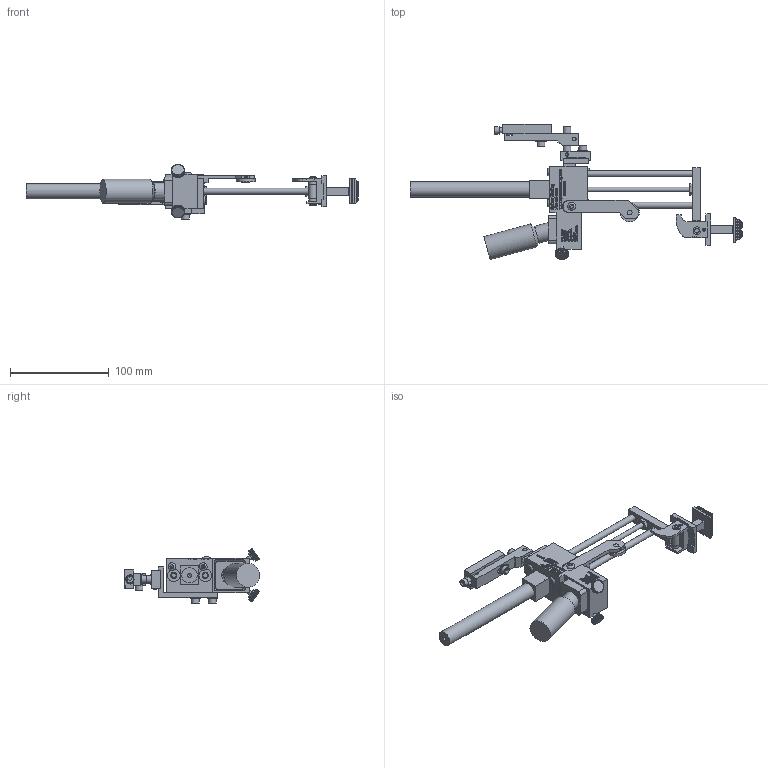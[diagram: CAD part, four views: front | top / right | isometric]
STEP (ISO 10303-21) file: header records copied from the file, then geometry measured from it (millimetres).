
FILE_DESCRIPTION((''),'2;1');
FILE_NAME('C:\Documents and Settings\Ron\My Documents\Inventor\Sprinter Drawing\Machines in Inventor\Model 88\Type\Ext Hd 1in\Brkt\Ext\model 88 EH 1 Ext w Brkt mod 2012.stp','2012-03-16T13:13:22',('Ron'),(''),'Autodesk Inventor 2011','Autodesk Inventor 2011','');
FILE_SCHEMA(('AUTOMOTIVE_DESIGN { 1 0 10303 214 1 1 1 1 }'));
Length unit declared in the file: inch
Products named in the file (44): model 88 EH 1 Ext w Brkt mod 2012; 88 Frame Body Assy Ext; 88 Frame Body; 66 Linear Bearing; Hexagon Socket Button Head Cap Screw - Inch 8 - 32 x 1/4; Hexagon Socket Head Cap Screw - Inch No. 8 - 32 UNC - 1 1/2; 10 Ink Resevior Lock Screw; INK RESERVOIR ASSY; 88 RESERVOIR; 88 Ink Pad; 66 INK BOTTLE; 88 EH1 Wheel Bracket ASSY; 88 EH1  Wheel Bracket Arm(TRIAL ONLY); 44 Wheel Retainer; 44 Cam Wheel; Hexagon Socket Set Screw - Flat Point - Inch 4-48 UNF x 0.19; 8-32x0.25 Hexagon Socket Button Head Cap Screw ANSI/ASME B18.3; 88 Rod Carrier Extended EH1; 88 Rod Carrier; Type A - Hexagon Socket Set Screw - Cup Point - Inch 8-32 UNC x 0.32; 66 PIVOT SHAFT; 66 PIVOT SHAFT LOCKING RING; 23 66 invert block; AS 1112 (4)  - Metric M6; 66 Spring; 19 Rod Carrier Set Screws; 88 EH1 Marking head assy; 88-EH-1 CLIP plate; 88 baselock (model sized); 88 baselock STAMP-2; Model 66, EH1 std .25 x 6; Hexagon Socket Set Screw - Flat Point - Inch 8-32 UNC x 0.32; EH1 ext std; Model 88 RPB; rpb4; rpb3; rpb-1; rpb2; No. 10-24x0.88 Hexagon socket head cap screw ANSI/ASME B18.3; Type B - Plain Washer (Inch) No. 10 - narrow - Type B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
Assembly tree (59 placements, depth 4):
  model 88 EH 1 Ext w Brkt mod 2012
    88 Frame Body Assy Ext
      88 Frame Body
      66 Linear Bearing  x2
      Hexagon Socket Button Head Cap Screw - Inch 8 - 32 x 1/4  x4
      Hexagon Socket Head Cap Screw - Inch No. 8 - 32 UNC - 1 1/2  x2
      10 Ink Resevior Lock Screw  x2
      INK RESERVOIR ASSY
        88 RESERVOIR
        88 Ink Pad
        66 INK BOTTLE
      88 EH1 Wheel Bracket ASSY
        88 EH1  Wheel Bracket Arm(TRIAL ONLY)
        44 Wheel Retainer
        44 Cam Wheel
        Hexagon Socket Set Screw - Flat Point - Inch 4-48 UNF x 0.19
      8-32x0.25 Hexagon Socket Button Head Cap Screw ANSI/ASME B18.3
    88 Rod Carrier Extended EH1
      88 Rod Carrier
      Type A - Hexagon Socket Set Screw - Cup Point - Inch 8-32 UNC x 0.32
      66 PIVOT SHAFT
      66 PIVOT SHAFT LOCKING RING  x2
      23 66 invert block
      AS 1112 (4)  - Metric M6
      66 Spring
      19 Rod Carrier Set Screws  x2
      88 EH1 Marking head assy
        88-EH-1 CLIP plate
        88 baselock (model sized)
        88 baselock STAMP-2
      Model 66, EH1 std .25 x 6  x2
      Hexagon Socket Set Screw - Flat Point - Inch 8-32 UNC x 0.32
    EH1 ext std
    Model 88 RPB
      rpb4
      rpb3
      rpb-1
      rpb2
      No. 10-24x0.88 Hexagon socket head cap screw ANSI/ASME B18.3  x5
      Type B - Plain Washer (Inch) No. 10 - narrow - Type B  x4
      66 Machine Mounting Pivot Bracket
      Pin - Hardened Ground Machine Dowel (Inch) 1/8 x 3/4
      Pin - Hardened Ground Machine Dowel (Inch) 1/8 x 3/8
    10-32 PORTS DECAL
Bounding box: 335.86 x 136.58 x 55.4 mm (x, y, z)
Volume: 212711 mm3; surface area: 104121.6 mm2
Topology: 426 solids, 426 shells, 6419 faces, 15731 edges, 9741 vertices
Faces by surface type: plane 4467, bspline 1294, cylinder 567, cone 68, torus 23
Full cylindrical faces by diameter (mm): 1.143 x1, 2.261 x1, 2.54 x2, 2.642 x1, 2.845 x1, 3.175 x4, 3.2 x1, 3.302 x14, 3.683 x2, 3.962 x10, 4.064 x2, 4.166 x11, 4.547 x2, 4.699 x3, 4.75 x4, 4.775 x2, 4.826 x8, 4.864 x2, 4.917 x1, 5.055 x1, 5.156 x7, 5.359 x1, 5.556 x1, 6.325 x4, 6.35 x7, 6.426 x1, 6.604 x1, 6.858 x2, 7.366 x2, 7.62 x2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
Entity records: 152914 total; most frequent: CARTESIAN_POINT 45424, ORIENTED_EDGE 23922, DIRECTION 17322, EDGE_CURVE 11961, VECTOR 8552, LINE 8552, VERTEX_POINT 7681, EDGE_LOOP 5356
